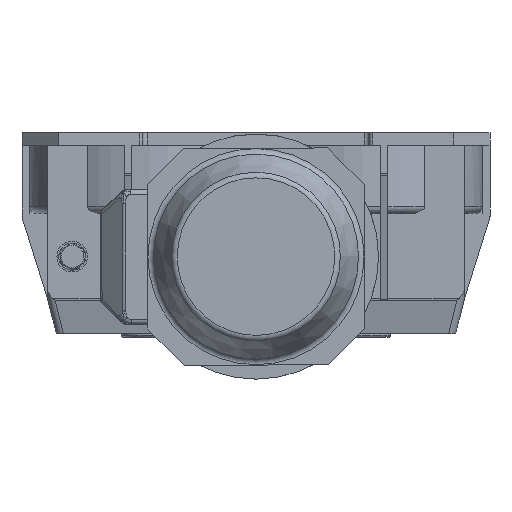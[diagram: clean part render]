
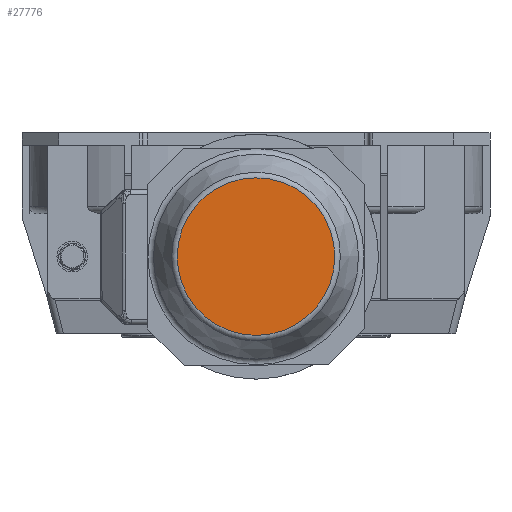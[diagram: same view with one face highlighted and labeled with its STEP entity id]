
A CAD part, front view. The second image highlights one B-rep face of the part: STEP entity #27776.
In plain terms, the highlighted planar face has unit normal (0, -1, 0) as drawn and (1, 0, 0) by its records, which use the part's own axes.
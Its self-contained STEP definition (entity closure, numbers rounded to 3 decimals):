
#27753=CARTESIAN_POINT('',(308.,0.0,64.298));
#27754=VERTEX_POINT('',#27753);
#27755=CARTESIAN_POINT('',(308.0,0.0,0.));
#27756=DIRECTION('',(-1.0,0.0,0.0));
#27757=DIRECTION('',(0.0,0.0,-1.0));
#27758=AXIS2_PLACEMENT_3D('',#27755,#27756,#27757);
#27759=CIRCLE('',#27758,64.298);
#27760=EDGE_CURVE('',#27754,#27754,#27759,.T.);
#27768=CARTESIAN_POINT('',(308.0,0.0,33.75));
#27769=DIRECTION('',(1.0,0.0,0.0));
#27770=DIRECTION('',(0.0,0.0,-1.0));
#27771=AXIS2_PLACEMENT_3D('',#27768,#27769,#27770);
#27772=PLANE('',#27771);
#27773=ORIENTED_EDGE('',*,*,#27760,.F.);
#27774=EDGE_LOOP('',(#27773));
#27775=FACE_OUTER_BOUND('',#27774,.T.);
#27776=ADVANCED_FACE('',(#27775),#27772,.T.);
